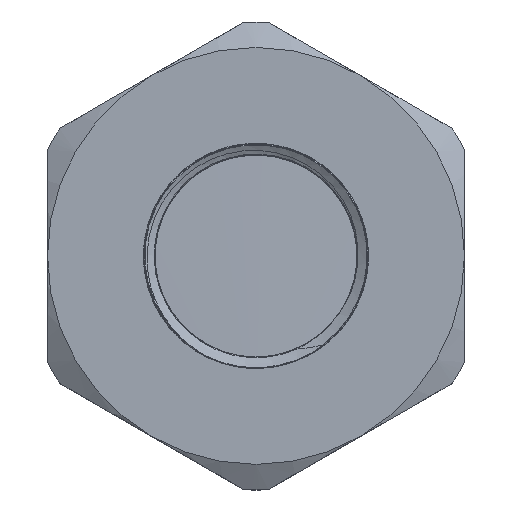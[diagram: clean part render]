
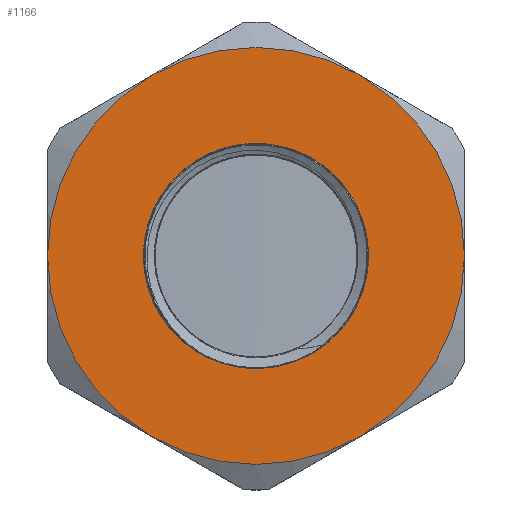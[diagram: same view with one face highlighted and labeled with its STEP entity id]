
A CAD part, top view. The second image highlights one B-rep face of the part: STEP entity #1166.
In plain terms, the highlighted planar face has unit normal (0, 0, 1).
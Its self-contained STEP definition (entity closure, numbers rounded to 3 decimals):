
#116=FACE_BOUND('',#357,.T.);
#130=PLANE('',#1285);
#283=FACE_OUTER_BOUND('',#356,.T.);
#356=EDGE_LOOP('',(#878,#879,#880,#881,#882,#883));
#357=EDGE_LOOP('',(#884,#885));
#409=CIRCLE('',#1237,24.5);
#411=CIRCLE('',#1240,24.5);
#413=CIRCLE('',#1243,24.5);
#414=CIRCLE('',#1245,24.5);
#416=CIRCLE('',#1248,24.5);
#418=CIRCLE('',#1251,24.5);
#435=CIRCLE('',#1286,13.22);
#436=CIRCLE('',#1287,13.22);
#465=VERTEX_POINT('',#1591);
#467=VERTEX_POINT('',#1597);
#469=VERTEX_POINT('',#1604);
#472=VERTEX_POINT('',#1616);
#475=VERTEX_POINT('',#1631);
#478=VERTEX_POINT('',#1643);
#503=VERTEX_POINT('',#1735);
#504=VERTEX_POINT('',#1736);
#588=EDGE_CURVE('',#465,#467,#409,.T.);
#592=EDGE_CURVE('',#469,#465,#411,.T.);
#596=EDGE_CURVE('',#472,#469,#413,.T.);
#598=EDGE_CURVE('',#475,#472,#414,.T.);
#602=EDGE_CURVE('',#478,#475,#416,.T.);
#606=EDGE_CURVE('',#467,#478,#418,.T.);
#644=EDGE_CURVE('',#503,#504,#435,.T.);
#645=EDGE_CURVE('',#504,#503,#436,.T.);
#878=ORIENTED_EDGE('',*,*,#606,.T.);
#879=ORIENTED_EDGE('',*,*,#602,.T.);
#880=ORIENTED_EDGE('',*,*,#598,.T.);
#881=ORIENTED_EDGE('',*,*,#596,.T.);
#882=ORIENTED_EDGE('',*,*,#592,.T.);
#883=ORIENTED_EDGE('',*,*,#588,.T.);
#884=ORIENTED_EDGE('',*,*,#644,.F.);
#885=ORIENTED_EDGE('',*,*,#645,.F.);
#1166=ADVANCED_FACE('',(#283,#116),#130,.T.);
#1237=AXIS2_PLACEMENT_3D('',#1601,#1343,#1344);
#1240=AXIS2_PLACEMENT_3D('',#1613,#1349,#1350);
#1243=AXIS2_PLACEMENT_3D('',#1625,#1355,#1356);
#1245=AXIS2_PLACEMENT_3D('',#1632,#1359,#1360);
#1248=AXIS2_PLACEMENT_3D('',#1644,#1365,#1366);
#1251=AXIS2_PLACEMENT_3D('',#1655,#1371,#1372);
#1285=AXIS2_PLACEMENT_3D('',#1734,#1459,#1460);
#1286=AXIS2_PLACEMENT_3D('',#1737,#1461,#1462);
#1287=AXIS2_PLACEMENT_3D('',#1738,#1463,#1464);
#1343=DIRECTION('center_axis',(0.,0.,1.));
#1344=DIRECTION('ref_axis',(0.,1.,0.));
#1349=DIRECTION('center_axis',(0.,0.,1.));
#1350=DIRECTION('ref_axis',(0.,1.,0.));
#1355=DIRECTION('center_axis',(0.,0.,1.));
#1356=DIRECTION('ref_axis',(0.,1.,0.));
#1359=DIRECTION('center_axis',(0.,0.,1.));
#1360=DIRECTION('ref_axis',(0.,1.,0.));
#1365=DIRECTION('center_axis',(0.,0.,1.));
#1366=DIRECTION('ref_axis',(0.,1.,0.));
#1371=DIRECTION('center_axis',(0.,0.,1.));
#1372=DIRECTION('ref_axis',(0.,1.,0.));
#1459=DIRECTION('center_axis',(0.,0.,1.));
#1460=DIRECTION('ref_axis',(1.,0.,0.));
#1461=DIRECTION('center_axis',(0.,0.,1.));
#1462=DIRECTION('ref_axis',(1.,0.,0.));
#1463=DIRECTION('center_axis',(0.,0.,1.));
#1464=DIRECTION('ref_axis',(1.,0.,0.));
#1591=CARTESIAN_POINT('',(-24.5,0.,24.));
#1597=CARTESIAN_POINT('',(-12.25,-21.218,24.));
#1601=CARTESIAN_POINT('Origin',(0.,0.,24.));
#1604=CARTESIAN_POINT('',(-12.25,21.218,24.));
#1613=CARTESIAN_POINT('Origin',(0.,0.,24.));
#1616=CARTESIAN_POINT('',(12.25,21.218,24.));
#1625=CARTESIAN_POINT('Origin',(0.,0.,24.));
#1631=CARTESIAN_POINT('',(24.5,0.,24.));
#1632=CARTESIAN_POINT('Origin',(0.,0.,24.));
#1643=CARTESIAN_POINT('',(12.25,-21.218,24.));
#1644=CARTESIAN_POINT('Origin',(0.,0.,24.));
#1655=CARTESIAN_POINT('Origin',(0.,0.,24.));
#1734=CARTESIAN_POINT('Origin',(0.,-13.22,24.));
#1735=CARTESIAN_POINT('',(0.,-13.22,24.));
#1736=CARTESIAN_POINT('',(0.,13.22,24.));
#1737=CARTESIAN_POINT('Origin',(0.,0.,24.));
#1738=CARTESIAN_POINT('Origin',(0.,0.,24.));
